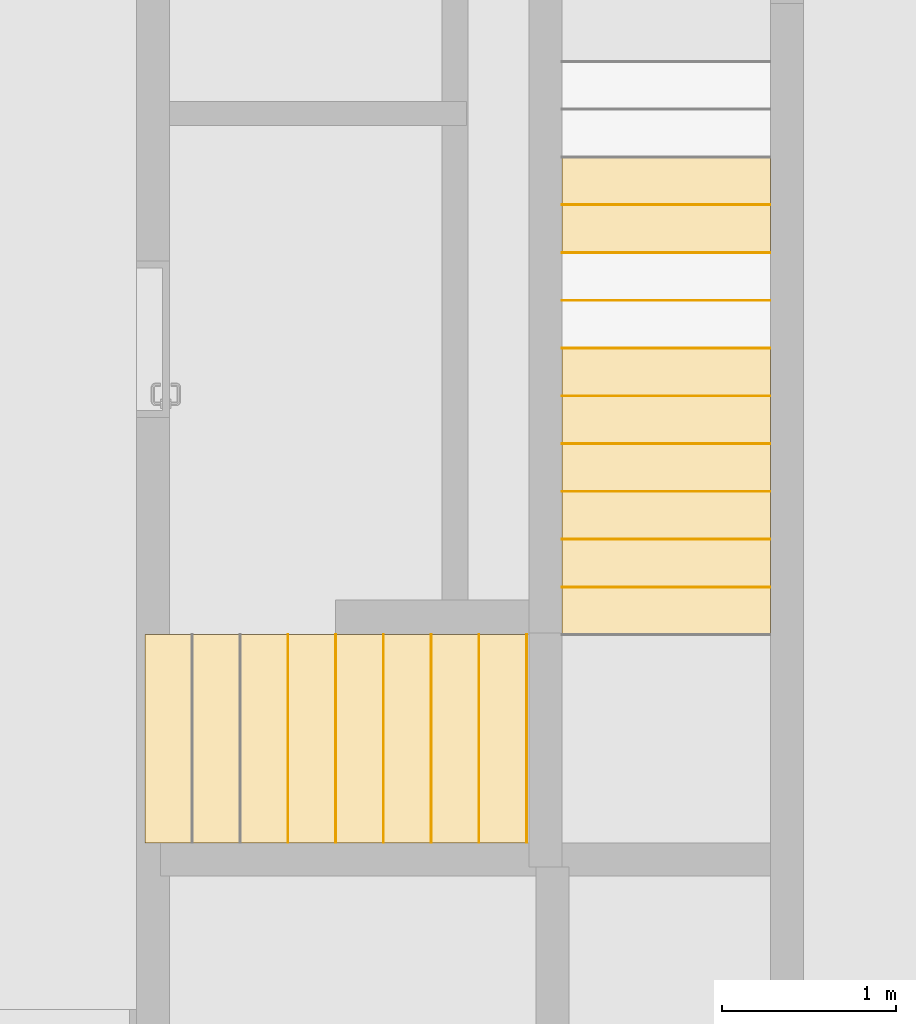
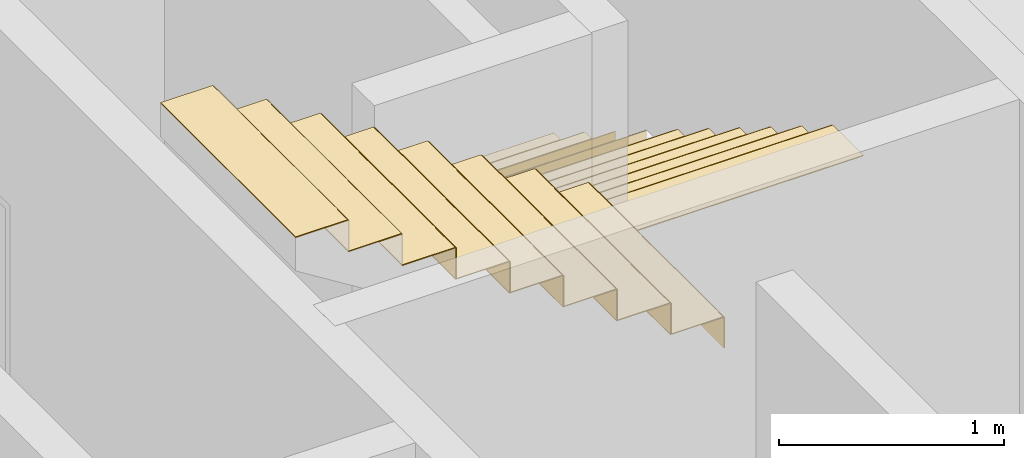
# One storey, part 60 of 62: 31 coverings, 1 element without a shape of its own.
"""IFC2X3 building model written with IfcOpenShell, lengths in millimetres."""

from ifc_helpers import new_model, entity, si_unit, converted_unit, derived_unit, money_unit, direction, frame, origin_with_axes, place, context, subcontext, project, spatial, faceted_brep, material, type_object, element, aggregate, save


model = new_model("IFC2X3")

# Units and contexts
model_context = context("Model", 3, precision=0.01, world=origin_with_axes(), true_north=direction((0.0, 1.0)))
body_context = subcontext(model_context, "Body", "Model", "MODEL_VIEW")
ifc_project = project(units=[si_unit("LENGTHUNIT", "METRE", prefix="MILLI"), si_unit("AREAUNIT", "SQUARE_METRE"), si_unit("VOLUMEUNIT", "CUBIC_METRE"), converted_unit("PLANEANGLEUNIT", "DEGREE", entity("IfcPlaneAngleMeasure", 0.0174532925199), si_unit("PLANEANGLEUNIT", "RADIAN"), dimensions=[0, 0, 0, 0, 0, 0, 0]), si_unit("SOLIDANGLEUNIT", "STERADIAN"), money_unit("EUR"), converted_unit("TIMEUNIT", "Year", entity("IfcTimeMeasure", 31556926.0), si_unit("TIMEUNIT", "SECOND"), dimensions=[0, 0, 1, 0, 0, 0, 0]), si_unit("MASSUNIT", "GRAM", prefix="KILO"), si_unit("THERMODYNAMICTEMPERATUREUNIT", "DEGREE_CELSIUS"), si_unit("LUMINOUSINTENSITYUNIT", "LUMEN"), si_unit("ENERGYUNIT", "JOULE", prefix="MEGA"), derived_unit("THERMALCONDUCTANCEUNIT", [(si_unit("POWERUNIT", "WATT"), 1), (si_unit("LENGTHUNIT", "METRE"), -1), (si_unit("THERMODYNAMICTEMPERATUREUNIT", "KELVIN"), -1)]), derived_unit("SPECIFICHEATCAPACITYUNIT", [(si_unit("ENERGYUNIT", "JOULE"), 1), (si_unit("MASSUNIT", "GRAM", prefix="KILO"), -1), (si_unit("THERMODYNAMICTEMPERATUREUNIT", "KELVIN"), -1)]), derived_unit("MASSDENSITYUNIT", [(si_unit("MASSUNIT", "GRAM", prefix="KILO"), 1), (si_unit("VOLUMEUNIT", "CUBIC_METRE"), -1)])], contexts=[model_context])

# Site, building, storey
site_placement = place(None, origin_with_axes())
site = spatial("IfcSite", under=ifc_project, at=site_placement, Name="KIRDE 14, ELVA", CompositionType="ELEMENT")
building_placement = place(site_placement, origin_with_axes())
building = spatial("IfcBuilding", under=site, at=building_placement, Name="PPA ja Päästeameti ühishoone", CompositionType="ELEMENT")
storey_placement = place(building_placement, origin_with_axes())
storey = spatial("IfcBuildingStorey", under=building, at=storey_placement, Name="Esimene korrus", CompositionType="ELEMENT", Elevation=0.0)

# Stair, coverings
stair_placement = place(storey_placement, frame((7700.00010085, 18999.9988138, 0.0), z_axis=(0.0, 0.0, 1.0), x_axis=(0.845542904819, 0.533907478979, 0.0)))
stair = element("IfcStair", 1, at=stair_placement, inside=storey, Name="TREPP", ShapeType="NOTDEFINED")
ifc_material = material(Name="SV-02_Puit - Põrand")
covering_type = type_object("IfcCoveringType", Name="IfcCovering", PredefinedType="FLOORING")
covering_1_placement = place(stair_placement, frame((66.8520789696, -1017.91738681, 680.714285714), z_axis=(0.0, 0.0, 1.0), x_axis=(-0.845542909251, 0.533907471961, 0.0)))
covering_1 = element("IfcCovering", 2, at=covering_1_placement, type_object=covering_type, material=ifc_material, Name="TV TÕUS - 004", PredefinedType="FLOORING", context=body_context, shape_type="Brep", body=[
    faceted_brep([(600.0, 0.0, 0.0), (600.0, 5.0, 0.0), (-600.0, 5.0, 0.0), (-600.0, 0.0, 0.0), (600.0, 0.0, -166.428571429), (600.0, 5.0, -166.428571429), (-600.0, 5.0, -166.428571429), (-600.0, 0.0, -166.428571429)], [[[0, 1, 2, 3]], [[0, 4, 5, 1]], [[1, 5, 6, 2]], [[3, 2, 6, 7]], [[4, 0, 3, 7]], [[5, 4, 7, 6]]]),
])
covering_2_placement = place(stair_placement, frame((-79.9724765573, -1250.44168802, 852.142857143), z_axis=(0.0, 0.0, 1.0), x_axis=(-0.845542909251, 0.533907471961, 0.0)))
covering_2 = element("IfcCovering", 3, at=covering_2_placement, type_object=covering_type, material=ifc_material, Name="TV TÕUS - 005", PredefinedType="FLOORING", context=body_context, shape_type="Brep", body=[
    faceted_brep([(600.0, 0.0, 0.0), (600.0, 5.0, 0.0), (-600.0, 5.0, 0.0), (-600.0, 0.0, 0.0), (600.0, 0.0, -166.428571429), (600.0, 5.0, -166.428571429), (-600.0, 5.0, -166.428571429), (-600.0, 0.0, -166.428571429)], [[[0, 1, 2, 3]], [[0, 4, 5, 1]], [[1, 5, 6, 2]], [[3, 2, 6, 7]], [[4, 0, 3, 7]], [[5, 4, 7, 6]]]),
])
covering_3_placement = place(stair_placement, frame((-226.797032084, -1482.96598924, 1023.57142857), z_axis=(0.0, 0.0, 1.0), x_axis=(-0.845542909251, 0.533907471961, 0.0)))
covering_3 = element("IfcCovering", 4, at=covering_3_placement, type_object=covering_type, material=ifc_material, Name="TV TÕUS - 006", PredefinedType="FLOORING", context=body_context, shape_type="Brep", body=[
    faceted_brep([(600.0, 0.0, 0.0), (600.0, 5.0, 0.0), (-600.0, 5.0, 0.0), (-600.0, 0.0, 0.0), (600.0, 0.0, -166.428571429), (600.0, 5.0, -166.428571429), (-600.0, 5.0, -166.428571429), (-600.0, 0.0, -166.428571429)], [[[0, 1, 2, 3]], [[0, 4, 5, 1]], [[1, 5, 6, 2]], [[3, 2, 6, 7]], [[4, 0, 3, 7]], [[5, 4, 7, 6]]]),
])
covering_4_placement = place(stair_placement, frame((-373.621587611, -1715.49029045, 1195.0), z_axis=(0.0, 0.0, 1.0), x_axis=(-0.845542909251, 0.533907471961, 0.0)))
covering_4 = element("IfcCovering", 5, at=covering_4_placement, type_object=covering_type, material=ifc_material, Name="TV TÕUS - 007", PredefinedType="FLOORING", context=body_context, shape_type="Brep", body=[
    faceted_brep([(600.0, 0.0, 0.0), (600.0, 5.0, 0.0), (-600.0, 5.0, 0.0), (-600.0, 0.0, 0.0), (600.0, 0.0, -166.428571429), (600.0, 5.0, -166.428571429), (-600.0, 5.0, -166.428571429), (-600.0, 0.0, -166.428571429)], [[[0, 1, 2, 3]], [[0, 4, 5, 1]], [[1, 5, 6, 2]], [[3, 2, 6, 7]], [[4, 0, 3, 7]], [[5, 4, 7, 6]]]),
])
covering_5_placement = place(stair_placement, frame((-520.446143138, -1948.01459166, 1366.42857143), z_axis=(0.0, 0.0, 1.0), x_axis=(-0.845542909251, 0.533907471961, 0.0)))
covering_5 = element("IfcCovering", 6, at=covering_5_placement, type_object=covering_type, material=ifc_material, Name="TV TÕUS - 008", PredefinedType="FLOORING", context=body_context, shape_type="Brep", body=[
    faceted_brep([(600.0, 0.0, 0.0), (600.0, 5.0, 0.0), (-600.0, 5.0, 0.0), (-600.0, 0.0, 0.0), (600.0, 0.0, -166.428571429), (600.0, 5.0, -166.428571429), (-600.0, 5.0, -166.428571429), (-600.0, 0.0, -166.428571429)], [[[0, 1, 2, 3]], [[0, 4, 5, 1]], [[1, 5, 6, 2]], [[3, 2, 6, 7]], [[4, 0, 3, 7]], [[5, 4, 7, 6]]]),
])
covering_6_placement = place(stair_placement, frame((-667.270698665, -2180.53889287, 1537.85714286), z_axis=(0.0, 0.0, 1.0), x_axis=(-0.845542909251, 0.533907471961, 0.0)))
covering_6 = element("IfcCovering", 7, at=covering_6_placement, type_object=covering_type, material=ifc_material, Name="TV TÕUS - 009", PredefinedType="FLOORING", context=body_context, shape_type="Brep", body=[
    faceted_brep([(600.0, 0.0, 0.0), (600.0, 5.0, 0.0), (-600.0, 5.0, 0.0), (-600.0, 0.0, 0.0), (600.0, 0.0, -166.428571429), (600.0, 5.0, -166.428571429), (-600.0, 5.0, -166.428571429), (-600.0, 0.0, -166.428571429)], [[[0, 1, 2, 3]], [[0, 4, 5, 1]], [[1, 5, 6, 2]], [[3, 2, 6, 7]], [[4, 0, 3, 7]], [[5, 4, 7, 6]]]),
])
covering_7_placement = place(stair_placement, frame((-814.095254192, -2413.06319408, 1709.28571429), z_axis=(0.0, 0.0, 1.0), x_axis=(-0.845542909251, 0.533907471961, 0.0)))
covering_7 = element("IfcCovering", 8, at=covering_7_placement, type_object=covering_type, material=ifc_material, Name="TV TÕUS - 010", PredefinedType="FLOORING", context=body_context, shape_type="Brep", body=[
    faceted_brep([(600.0, 0.0, 0.0), (600.0, 5.0, 0.0), (-600.0, 5.0, 0.0), (-600.0, 0.0, 0.0), (600.0, 0.0, -166.428571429), (600.0, 5.0, -166.428571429), (-600.0, 5.0, -166.428571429), (-600.0, 0.0, -166.428571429)], [[[0, 1, 2, 3]], [[0, 4, 5, 1]], [[1, 5, 6, 2]], [[3, 2, 6, 7]], [[4, 0, 3, 7]], [[5, 4, 7, 6]]]),
])
covering_8_placement = place(stair_placement, frame((-960.919809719, -2645.5874953, 1880.71428571), z_axis=(0.0, 0.0, 1.0), x_axis=(-0.845542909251, 0.533907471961, 0.0)))
covering_8 = element("IfcCovering", 9, at=covering_8_placement, type_object=covering_type, material=ifc_material, Name="TV TÕUS - 011", PredefinedType="FLOORING", context=body_context, shape_type="Brep", body=[
    faceted_brep([(600.0, 0.0, 0.0), (600.0, 5.0, 0.0), (-600.0, 5.0, 0.0), (-600.0, 0.0, 0.0), (600.0, 0.0, -166.428571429), (600.0, 5.0, -166.428571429), (-600.0, 5.0, -166.428571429), (-600.0, 0.0, -166.428571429)], [[[0, 1, 2, 3]], [[0, 4, 5, 1]], [[1, 5, 6, 2]], [[3, 2, 6, 7]], [[4, 0, 3, 7]], [[5, 4, 7, 6]]]),
])
covering_9_placement = place(stair_placement, frame((-1107.74436525, -2878.11179651, 2052.14285714), z_axis=(0.0, 0.0, 1.0), x_axis=(-0.845542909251, 0.533907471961, 0.0)))
covering_9 = element("IfcCovering", 10, at=covering_9_placement, type_object=covering_type, material=ifc_material, Name="TV TÕUS - 012", PredefinedType="FLOORING", context=body_context, shape_type="Brep", body=[
    faceted_brep([(600.0, 0.0, 0.0), (600.0, 5.0, 0.0), (-600.0, 5.0, 0.0), (-600.0, 0.0, 0.0), (600.0, 0.0, -166.428571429), (600.0, 5.0, -166.428571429), (-600.0, 5.0, -166.428571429), (-600.0, 0.0, -166.428571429)], [[[0, 1, 2, 3]], [[0, 4, 5, 1]], [[1, 5, 6, 2]], [[3, 2, 6, 7]], [[4, 0, 3, 7]], [[5, 4, 7, 6]]]),
])
covering_10_placement = place(stair_placement, frame((-2251.34772105, -3190.83587272, 2395.0), z_axis=(0.0, 0.0, 1.0), x_axis=(0.533907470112, 0.845542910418, 0.0)))
covering_10 = element("IfcCovering", 11, at=covering_10_placement, type_object=covering_type, material=ifc_material, Name="TV TÕUS - 013", PredefinedType="FLOORING", context=body_context, shape_type="Brep", body=[
    faceted_brep([(600.0, 0.0, 0.0), (600.0, 5.0, 0.0), (-600.0, 5.0, 0.0), (-600.0, 0.0, 0.0), (600.0, 0.0, -166.428571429), (600.0, 5.0, -166.428571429), (-600.0, 5.0, -166.428571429), (-600.0, 0.0, -166.428571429)], [[[0, 1, 2, 3]], [[0, 4, 5, 1]], [[1, 5, 6, 2]], [[3, 2, 6, 7]], [[4, 0, 3, 7]], [[5, 4, 7, 6]]]),
])
covering_11_placement = place(stair_placement, frame((-2483.87202258, -3044.0113177, 2566.42857143), z_axis=(0.0, 0.0, 1.0), x_axis=(0.533907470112, 0.845542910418, 0.0)))
covering_11 = element("IfcCovering", 12, at=covering_11_placement, type_object=covering_type, material=ifc_material, Name="TV TÕUS - 014", PredefinedType="FLOORING", context=body_context, shape_type="Brep", body=[
    faceted_brep([(600.0, 0.0, 0.0), (600.0, 5.0, 0.0), (-600.0, 5.0, 0.0), (-600.0, 0.0, 0.0), (600.0, 0.0, -166.428571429), (600.0, 5.0, -166.428571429), (-600.0, 5.0, -166.428571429), (-600.0, 0.0, -166.428571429)], [[[0, 1, 2, 3]], [[0, 4, 5, 1]], [[1, 5, 6, 2]], [[3, 2, 6, 7]], [[4, 0, 3, 7]], [[5, 4, 7, 6]]]),
])
covering_12_placement = place(stair_placement, frame((-2716.39632412, -2897.18676269, 2737.85714286), z_axis=(0.0, 0.0, 1.0), x_axis=(0.533907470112, 0.845542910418, 0.0)))
covering_12 = element("IfcCovering", 13, at=covering_12_placement, type_object=covering_type, material=ifc_material, Name="TV TÕUS - 015", PredefinedType="FLOORING", context=body_context, shape_type="Brep", body=[
    faceted_brep([(600.0, 0.0, 0.0), (600.0, 5.0, 0.0), (-600.0, 5.0, 0.0), (-600.0, 0.0, 0.0), (600.0, 0.0, -166.428571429), (600.0, 5.0, -166.428571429), (-600.0, 5.0, -166.428571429), (-600.0, 0.0, -166.428571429)], [[[0, 1, 2, 3]], [[0, 4, 5, 1]], [[1, 5, 6, 2]], [[3, 2, 6, 7]], [[4, 0, 3, 7]], [[5, 4, 7, 6]]]),
])
covering_13_placement = place(stair_placement, frame((-2948.92062565, -2750.36220767, 2909.28571429), z_axis=(0.0, 0.0, 1.0), x_axis=(0.533907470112, 0.845542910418, 0.0)))
covering_13 = element("IfcCovering", 14, at=covering_13_placement, type_object=covering_type, material=ifc_material, Name="TV TÕUS - 016", PredefinedType="FLOORING", context=body_context, shape_type="Brep", body=[
    faceted_brep([(600.0, 0.0, 0.0), (600.0, 5.0, 0.0), (-600.0, 5.0, 0.0), (-600.0, 0.0, 0.0), (600.0, 0.0, -166.428571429), (600.0, 5.0, -166.428571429), (-600.0, 5.0, -166.428571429), (-600.0, 0.0, -166.428571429)], [[[0, 1, 2, 3]], [[0, 4, 5, 1]], [[1, 5, 6, 2]], [[3, 2, 6, 7]], [[4, 0, 3, 7]], [[5, 4, 7, 6]]]),
])
covering_14_placement = place(stair_placement, frame((-3181.44492718, -2603.53765265, 3080.71428571), z_axis=(0.0, 0.0, 1.0), x_axis=(0.533907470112, 0.845542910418, 0.0)))
covering_14 = element("IfcCovering", 15, at=covering_14_placement, type_object=covering_type, material=ifc_material, Name="TV TÕUS - 017", PredefinedType="FLOORING", context=body_context, shape_type="Brep", body=[
    faceted_brep([(600.0, 0.0, 0.0), (600.0, 5.0, 0.0), (-600.0, 5.0, 0.0), (-600.0, 0.0, 0.0), (600.0, 0.0, -166.428571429), (600.0, 5.0, -166.428571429), (-600.0, 5.0, -166.428571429), (-600.0, 0.0, -166.428571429)], [[[0, 1, 2, 3]], [[0, 4, 5, 1]], [[1, 5, 6, 2]], [[3, 2, 6, 7]], [[4, 0, 3, 7]], [[5, 4, 7, 6]]]),
])
covering_15_placement = place(stair_placement, frame((-3413.96922872, -2456.71309763, 3252.14285714), z_axis=(0.0, 0.0, 1.0), x_axis=(0.533907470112, 0.845542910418, 0.0)))
covering_15 = element("IfcCovering", 16, at=covering_15_placement, type_object=covering_type, material=ifc_material, Name="TV TÕUS - 018", PredefinedType="FLOORING", context=body_context, shape_type="Brep", body=[
    faceted_brep([(600.0, 0.0, 0.0), (600.0, 5.0, 0.0), (-600.0, 5.0, 0.0), (-600.0, 0.0, 0.0), (600.0, 0.0, -166.428571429), (600.0, 5.0, -166.428571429), (-600.0, 5.0, -166.428571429), (-600.0, 0.0, -166.428571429)], [[[0, 1, 2, 3]], [[0, 4, 5, 1]], [[1, 5, 6, 2]], [[3, 2, 6, 7]], [[4, 0, 3, 7]], [[5, 4, 7, 6]]]),
])
covering_16_placement = place(stair_placement, frame((213.676634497, -785.393085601, 514.285714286), z_axis=(0.0, 0.0, 1.0), x_axis=(-0.845542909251, 0.533907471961, 0.0)))
covering_16 = element("IfcCovering", 17, at=covering_16_placement, type_object=covering_type, material=ifc_material, Name="TV ASTE - 003", PredefinedType="FLOORING", context=body_context, shape_type="Brep", body=[
    faceted_brep([(-600.0, 280.000001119, 0.0), (600.0, 280.000006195, 0.0), (600.0, 280.000006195, -5.0), (-600.0, 280.000001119, -5.0), (-600.0, 12.5, 0.0), (600.0, 12.5, 0.0), (600.0, 2.92444446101, -4.46515487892), (600.0, 2.54994187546, -5.0), (600.0, 10.3293977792, -0.189903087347), (600.0, 8.22474820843, -0.753842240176), (600.0, 6.25, -1.67468245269), (600.0, 4.46515487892, -2.92444446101), (-600.0, 2.54994187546, -5.0), (-600.0, 2.92444446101, -4.46515487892), (-600.0, 4.46515487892, -2.92444446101), (-600.0, 6.25, -1.67468245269), (-600.0, 8.22474820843, -0.753842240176), (-600.0, 10.3293977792, -0.189903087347)], [[[0, 1, 2, 3]], [[1, 0, 4, 5]], [[6, 7, 2, 1, 5, 8, 9, 10, 11]], [[7, 12, 3, 2]], [[4, 0, 3, 12, 13, 14, 15, 16, 17]], [[8, 5, 4, 17]], [[7, 6, 13, 12]], [[9, 8, 17, 16]], [[10, 9, 16, 15]], [[11, 10, 15, 14]], [[6, 11, 14, 13]]]),
])
covering_17_placement = place(stair_placement, frame((66.8520789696, -1017.91738681, 685.714285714), z_axis=(0.0, 0.0, 1.0), x_axis=(-0.845542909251, 0.533907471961, 0.0)))
covering_17 = element("IfcCovering", 18, at=covering_17_placement, type_object=covering_type, material=ifc_material, Name="TV ASTE - 004", PredefinedType="FLOORING", context=body_context, shape_type="Brep", body=[
    faceted_brep([(-600.0, 280.000001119, 0.0), (600.0, 280.000006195, 0.0), (600.0, 280.000006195, -5.0), (-600.0, 280.000001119, -5.0), (-600.0, 12.5, 0.0), (600.0, 12.5, 0.0), (600.0, 2.92444446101, -4.46515487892), (600.0, 2.54994187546, -5.0), (600.0, 10.3293977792, -0.189903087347), (600.0, 8.22474820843, -0.753842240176), (600.0, 6.25, -1.67468245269), (600.0, 4.46515487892, -2.92444446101), (-600.0, 2.54994187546, -5.0), (-600.0, 2.92444446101, -4.46515487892), (-600.0, 4.46515487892, -2.92444446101), (-600.0, 6.25, -1.67468245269), (-600.0, 8.22474820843, -0.753842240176), (-600.0, 10.3293977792, -0.189903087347)], [[[0, 1, 2, 3]], [[1, 0, 4, 5]], [[6, 7, 2, 1, 5, 8, 9, 10, 11]], [[7, 12, 3, 2]], [[4, 0, 3, 12, 13, 14, 15, 16, 17]], [[8, 5, 4, 17]], [[7, 6, 13, 12]], [[9, 8, 17, 16]], [[10, 9, 16, 15]], [[11, 10, 15, 14]], [[6, 11, 14, 13]]]),
])
covering_18_placement = place(stair_placement, frame((-373.621587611, -1715.49029045, 1200.0), z_axis=(0.0, 0.0, 1.0), x_axis=(-0.845542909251, 0.533907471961, 0.0)))
covering_18 = element("IfcCovering", 19, at=covering_18_placement, type_object=covering_type, material=ifc_material, Name="TV ASTE - 007", PredefinedType="FLOORING", context=body_context, shape_type="Brep", body=[
    faceted_brep([(-600.0, 280.000001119, 0.0), (600.0, 280.000006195, 0.0), (600.0, 280.000006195, -5.0), (-600.0, 280.000001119, -5.0), (-600.0, 12.5, 0.0), (600.0, 12.5, 0.0), (600.0, 2.92444446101, -4.46515487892), (600.0, 2.54994187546, -5.0), (600.0, 10.3293977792, -0.189903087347), (600.0, 8.22474820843, -0.753842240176), (600.0, 6.25, -1.67468245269), (600.0, 4.46515487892, -2.92444446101), (-600.0, 2.54994187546, -5.0), (-600.0, 2.92444446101, -4.46515487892), (-600.0, 4.46515487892, -2.92444446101), (-600.0, 6.25, -1.67468245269), (-600.0, 8.22474820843, -0.753842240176), (-600.0, 10.3293977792, -0.189903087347)], [[[0, 1, 2, 3]], [[1, 0, 4, 5]], [[6, 7, 2, 1, 5, 8, 9, 10, 11]], [[7, 12, 3, 2]], [[4, 0, 3, 12, 13, 14, 15, 16, 17]], [[8, 5, 4, 17]], [[7, 6, 13, 12]], [[9, 8, 17, 16]], [[10, 9, 16, 15]], [[11, 10, 15, 14]], [[6, 11, 14, 13]]]),
])
covering_19_placement = place(stair_placement, frame((-520.446143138, -1948.01459166, 1371.42857143), z_axis=(0.0, 0.0, 1.0), x_axis=(-0.845542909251, 0.533907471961, 0.0)))
covering_19 = element("IfcCovering", 20, at=covering_19_placement, type_object=covering_type, material=ifc_material, Name="TV ASTE - 008", PredefinedType="FLOORING", context=body_context, shape_type="Brep", body=[
    faceted_brep([(-600.0, 280.000001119, 0.0), (600.0, 280.000006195, 0.0), (600.0, 280.000006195, -5.0), (-600.0, 280.000001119, -5.0), (-600.0, 12.5, 0.0), (600.0, 12.5, 0.0), (600.0, 2.92444446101, -4.46515487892), (600.0, 2.54994187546, -5.0), (600.0, 10.3293977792, -0.189903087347), (600.0, 8.22474820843, -0.753842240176), (600.0, 6.25, -1.67468245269), (600.0, 4.46515487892, -2.92444446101), (-600.0, 2.54994187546, -5.0), (-600.0, 2.92444446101, -4.46515487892), (-600.0, 4.46515487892, -2.92444446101), (-600.0, 6.25, -1.67468245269), (-600.0, 8.22474820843, -0.753842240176), (-600.0, 10.3293977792, -0.189903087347)], [[[0, 1, 2, 3]], [[1, 0, 4, 5]], [[6, 7, 2, 1, 5, 8, 9, 10, 11]], [[7, 12, 3, 2]], [[4, 0, 3, 12, 13, 14, 15, 16, 17]], [[8, 5, 4, 17]], [[7, 6, 13, 12]], [[9, 8, 17, 16]], [[10, 9, 16, 15]], [[11, 10, 15, 14]], [[6, 11, 14, 13]]]),
])
covering_20_placement = place(stair_placement, frame((-667.270698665, -2180.53889287, 1542.85714286), z_axis=(0.0, 0.0, 1.0), x_axis=(-0.845542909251, 0.533907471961, 0.0)))
covering_20 = element("IfcCovering", 21, at=covering_20_placement, type_object=covering_type, material=ifc_material, Name="TV ASTE - 009", PredefinedType="FLOORING", context=body_context, shape_type="Brep", body=[
    faceted_brep([(-600.0, 280.000001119, 0.0), (600.0, 280.000006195, 0.0), (600.0, 280.000006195, -5.0), (-600.0, 280.000001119, -5.0), (-600.0, 12.5, 0.0), (600.0, 12.5, 0.0), (600.0, 2.92444446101, -4.46515487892), (600.0, 2.54994187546, -5.0), (600.0, 10.3293977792, -0.189903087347), (600.0, 8.22474820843, -0.753842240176), (600.0, 6.25, -1.67468245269), (600.0, 4.46515487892, -2.92444446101), (-600.0, 2.54994187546, -5.0), (-600.0, 2.92444446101, -4.46515487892), (-600.0, 4.46515487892, -2.92444446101), (-600.0, 6.25, -1.67468245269), (-600.0, 8.22474820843, -0.753842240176), (-600.0, 10.3293977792, -0.189903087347)], [[[0, 1, 2, 3]], [[1, 0, 4, 5]], [[6, 7, 2, 1, 5, 8, 9, 10, 11]], [[7, 12, 3, 2]], [[4, 0, 3, 12, 13, 14, 15, 16, 17]], [[8, 5, 4, 17]], [[7, 6, 13, 12]], [[9, 8, 17, 16]], [[10, 9, 16, 15]], [[11, 10, 15, 14]], [[6, 11, 14, 13]]]),
])
covering_21_placement = place(stair_placement, frame((-814.095254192, -2413.06319408, 1714.28571429), z_axis=(0.0, 0.0, 1.0), x_axis=(-0.845542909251, 0.533907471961, 0.0)))
covering_21 = element("IfcCovering", 22, at=covering_21_placement, type_object=covering_type, material=ifc_material, Name="TV ASTE - 010", PredefinedType="FLOORING", context=body_context, shape_type="Brep", body=[
    faceted_brep([(-600.0, 280.000001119, 0.0), (600.0, 280.000006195, 0.0), (600.0, 280.000006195, -5.0), (-600.0, 280.000001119, -5.0), (-600.0, 12.5, 0.0), (600.0, 12.5, 0.0), (600.0, 2.92444446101, -4.46515487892), (600.0, 2.54994187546, -5.0), (600.0, 10.3293977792, -0.189903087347), (600.0, 8.22474820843, -0.753842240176), (600.0, 6.25, -1.67468245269), (600.0, 4.46515487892, -2.92444446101), (-600.0, 2.54994187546, -5.0), (-600.0, 2.92444446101, -4.46515487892), (-600.0, 4.46515487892, -2.92444446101), (-600.0, 6.25, -1.67468245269), (-600.0, 8.22474820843, -0.753842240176), (-600.0, 10.3293977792, -0.189903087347)], [[[0, 1, 2, 3]], [[1, 0, 4, 5]], [[6, 7, 2, 1, 5, 8, 9, 10, 11]], [[7, 12, 3, 2]], [[4, 0, 3, 12, 13, 14, 15, 16, 17]], [[8, 5, 4, 17]], [[7, 6, 13, 12]], [[9, 8, 17, 16]], [[10, 9, 16, 15]], [[11, 10, 15, 14]], [[6, 11, 14, 13]]]),
])
covering_22_placement = place(stair_placement, frame((-960.919809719, -2645.5874953, 1885.71428571), z_axis=(0.0, 0.0, 1.0), x_axis=(-0.845542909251, 0.533907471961, 0.0)))
covering_22 = element("IfcCovering", 23, at=covering_22_placement, type_object=covering_type, material=ifc_material, Name="TV ASTE - 011", PredefinedType="FLOORING", context=body_context, shape_type="Brep", body=[
    faceted_brep([(-600.0, 280.000001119, 0.0), (600.0, 280.000006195, 0.0), (600.0, 280.000006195, -5.0), (-600.0, 280.000001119, -5.0), (-600.0, 12.5, 0.0), (600.0, 12.5, 0.0), (600.0, 2.92444446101, -4.46515487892), (600.0, 2.54994187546, -5.0), (600.0, 10.3293977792, -0.189903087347), (600.0, 8.22474820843, -0.753842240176), (600.0, 6.25, -1.67468245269), (600.0, 4.46515487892, -2.92444446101), (-600.0, 2.54994187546, -5.0), (-600.0, 2.92444446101, -4.46515487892), (-600.0, 4.46515487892, -2.92444446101), (-600.0, 6.25, -1.67468245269), (-600.0, 8.22474820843, -0.753842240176), (-600.0, 10.3293977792, -0.189903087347)], [[[0, 1, 2, 3]], [[1, 0, 4, 5]], [[6, 7, 2, 1, 5, 8, 9, 10, 11]], [[7, 12, 3, 2]], [[4, 0, 3, 12, 13, 14, 15, 16, 17]], [[8, 5, 4, 17]], [[7, 6, 13, 12]], [[9, 8, 17, 16]], [[10, 9, 16, 15]], [[11, 10, 15, 14]], [[6, 11, 14, 13]]]),
])
covering_23_placement = place(stair_placement, frame((-1107.74436525, -2878.11179651, 2057.14285714), z_axis=(0.0, 0.0, 1.0), x_axis=(-0.845542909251, 0.533907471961, 0.0)))
covering_23 = element("IfcCovering", 24, at=covering_23_placement, type_object=covering_type, material=ifc_material, Name="TV ASTE - 012", PredefinedType="FLOORING", context=body_context, shape_type="Brep", body=[
    faceted_brep([(-600.0, 280.000001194, 0.0), (599.999996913, 280.00000627, 0.0), (599.999996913, 280.00000627, -5.0), (-600.0, 280.000001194, -5.0), (-600.0, 12.5, 0.0), (600.0, 12.5, 0.0), (600.0, 275.00000116, 0.0), (600.0, 275.00000116, -5.0), (600.0, 2.54994187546, -5.0), (-600.0, 2.54994187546, -5.0), (-600.0, 2.92444446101, -4.46515487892), (-600.0, 4.46515487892, -2.92444446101), (-600.0, 6.25, -1.67468245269), (-600.0, 8.22474820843, -0.753842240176), (-600.0, 10.3293977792, -0.189903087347), (600.0, 10.3293977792, -0.189903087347), (600.0, 2.92444446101, -4.46515487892), (600.0, 8.22474820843, -0.753842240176), (600.0, 6.25, -1.67468245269), (600.0, 4.46515487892, -2.92444446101)], [[[0, 1, 2, 3]], [[1, 0, 4, 5, 6]], [[1, 6, 7, 2]], [[8, 9, 3, 2, 7]], [[4, 0, 3, 9, 10, 11, 12, 13, 14]], [[15, 5, 4, 14]], [[16, 8, 7, 6, 5, 15, 17, 18, 19]], [[8, 16, 10, 9]], [[16, 19, 11, 10]], [[19, 18, 12, 11]], [[18, 17, 13, 12]], [[17, 15, 14, 13]]]),
])
covering_24_placement = place(stair_placement, frame((-2251.34772105, -3190.83587272, 2400.0), z_axis=(0.0, 0.0, 1.0), x_axis=(0.533907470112, 0.845542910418, 0.0)))
covering_24 = element("IfcCovering", 25, at=covering_24_placement, type_object=covering_type, material=ifc_material, Name="TV ASTE - 013", PredefinedType="FLOORING", context=body_context, shape_type="Brep", body=[
    faceted_brep([(-600.0, 280.000001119, 0.0), (600.0, 280.000006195, 0.0), (600.0, 280.000006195, -5.0), (-600.0, 280.000001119, -5.0), (-600.0, 12.5, 0.0), (600.0, 12.5, 0.0), (600.0, 2.92444446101, -4.46515487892), (600.0, 2.54994187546, -5.0), (600.0, 10.3293977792, -0.189903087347), (600.0, 8.22474820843, -0.753842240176), (600.0, 6.25, -1.67468245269), (600.0, 4.46515487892, -2.92444446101), (-600.0, 2.54994187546, -5.0), (-600.0, 2.92444446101, -4.46515487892), (-600.0, 4.46515487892, -2.92444446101), (-600.0, 6.25, -1.67468245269), (-600.0, 8.22474820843, -0.753842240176), (-600.0, 10.3293977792, -0.189903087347)], [[[0, 1, 2, 3]], [[1, 0, 4, 5]], [[6, 7, 2, 1, 5, 8, 9, 10, 11]], [[7, 12, 3, 2]], [[4, 0, 3, 12, 13, 14, 15, 16, 17]], [[8, 5, 4, 17]], [[7, 6, 13, 12]], [[9, 8, 17, 16]], [[10, 9, 16, 15]], [[11, 10, 15, 14]], [[6, 11, 14, 13]]]),
])
covering_25_placement = place(stair_placement, frame((-2483.87202258, -3044.0113177, 2571.42857143), z_axis=(0.0, 0.0, 1.0), x_axis=(0.533907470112, 0.845542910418, 0.0)))
covering_25 = element("IfcCovering", 26, at=covering_25_placement, type_object=covering_type, material=ifc_material, Name="TV ASTE - 014", PredefinedType="FLOORING", context=body_context, shape_type="Brep", body=[
    faceted_brep([(-600.0, 280.000001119, 0.0), (600.0, 280.000006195, 0.0), (600.0, 280.000006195, -5.0), (-600.0, 280.000001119, -5.0), (-600.0, 12.5, 0.0), (600.0, 12.5, 0.0), (600.0, 2.92444446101, -4.46515487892), (600.0, 2.54994187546, -5.0), (600.0, 10.3293977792, -0.189903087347), (600.0, 8.22474820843, -0.753842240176), (600.0, 6.25, -1.67468245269), (600.0, 4.46515487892, -2.92444446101), (-600.0, 2.54994187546, -5.0), (-600.0, 2.92444446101, -4.46515487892), (-600.0, 4.46515487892, -2.92444446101), (-600.0, 6.25, -1.67468245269), (-600.0, 8.22474820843, -0.753842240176), (-600.0, 10.3293977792, -0.189903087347)], [[[0, 1, 2, 3]], [[1, 0, 4, 5]], [[6, 7, 2, 1, 5, 8, 9, 10, 11]], [[7, 12, 3, 2]], [[4, 0, 3, 12, 13, 14, 15, 16, 17]], [[8, 5, 4, 17]], [[7, 6, 13, 12]], [[9, 8, 17, 16]], [[10, 9, 16, 15]], [[11, 10, 15, 14]], [[6, 11, 14, 13]]]),
])
covering_26_placement = place(stair_placement, frame((-2716.39632412, -2897.18676269, 2742.85714286), z_axis=(0.0, 0.0, 1.0), x_axis=(0.533907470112, 0.845542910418, 0.0)))
covering_26 = element("IfcCovering", 27, at=covering_26_placement, type_object=covering_type, material=ifc_material, Name="TV ASTE - 015", PredefinedType="FLOORING", context=body_context, shape_type="Brep", body=[
    faceted_brep([(-600.0, 280.000001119, 0.0), (600.0, 280.000006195, 0.0), (600.0, 280.000006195, -5.0), (-600.0, 280.000001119, -5.0), (-600.0, 12.5, 0.0), (600.0, 12.5, 0.0), (600.0, 2.92444446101, -4.46515487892), (600.0, 2.54994187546, -5.0), (600.0, 10.3293977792, -0.189903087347), (600.0, 8.22474820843, -0.753842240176), (600.0, 6.25, -1.67468245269), (600.0, 4.46515487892, -2.92444446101), (-600.0, 2.54994187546, -5.0), (-600.0, 2.92444446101, -4.46515487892), (-600.0, 4.46515487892, -2.92444446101), (-600.0, 6.25, -1.67468245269), (-600.0, 8.22474820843, -0.753842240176), (-600.0, 10.3293977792, -0.189903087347)], [[[0, 1, 2, 3]], [[1, 0, 4, 5]], [[6, 7, 2, 1, 5, 8, 9, 10, 11]], [[7, 12, 3, 2]], [[4, 0, 3, 12, 13, 14, 15, 16, 17]], [[8, 5, 4, 17]], [[7, 6, 13, 12]], [[9, 8, 17, 16]], [[10, 9, 16, 15]], [[11, 10, 15, 14]], [[6, 11, 14, 13]]]),
])
covering_27_placement = place(stair_placement, frame((-2948.92062565, -2750.36220767, 2914.28571429), z_axis=(0.0, 0.0, 1.0), x_axis=(0.533907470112, 0.845542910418, 0.0)))
covering_27 = element("IfcCovering", 28, at=covering_27_placement, type_object=covering_type, material=ifc_material, Name="TV ASTE - 016", PredefinedType="FLOORING", context=body_context, shape_type="Brep", body=[
    faceted_brep([(-600.0, 280.000001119, 0.0), (600.0, 280.000006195, 0.0), (600.0, 280.000006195, -5.0), (-600.0, 280.000001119, -5.0), (-600.0, 12.5, 0.0), (600.0, 12.5, 0.0), (600.0, 2.92444446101, -4.46515487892), (600.0, 2.54994187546, -5.0), (600.0, 10.3293977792, -0.189903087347), (600.0, 8.22474820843, -0.753842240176), (600.0, 6.25, -1.67468245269), (600.0, 4.46515487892, -2.92444446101), (-600.0, 2.54994187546, -5.0), (-600.0, 2.92444446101, -4.46515487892), (-600.0, 4.46515487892, -2.92444446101), (-600.0, 6.25, -1.67468245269), (-600.0, 8.22474820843, -0.753842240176), (-600.0, 10.3293977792, -0.189903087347)], [[[0, 1, 2, 3]], [[1, 0, 4, 5]], [[6, 7, 2, 1, 5, 8, 9, 10, 11]], [[7, 12, 3, 2]], [[4, 0, 3, 12, 13, 14, 15, 16, 17]], [[8, 5, 4, 17]], [[7, 6, 13, 12]], [[9, 8, 17, 16]], [[10, 9, 16, 15]], [[11, 10, 15, 14]], [[6, 11, 14, 13]]]),
])
covering_28_placement = place(stair_placement, frame((-3181.44492718, -2603.53765265, 3085.71428571), z_axis=(0.0, 0.0, 1.0), x_axis=(0.533907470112, 0.845542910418, 0.0)))
covering_28 = element("IfcCovering", 29, at=covering_28_placement, type_object=covering_type, material=ifc_material, Name="TV ASTE - 017", PredefinedType="FLOORING", context=body_context, shape_type="Brep", body=[
    faceted_brep([(-600.0, 280.000001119, 0.0), (600.0, 280.000006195, 0.0), (600.0, 280.000006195, -5.0), (-600.0, 280.000001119, -5.0), (-600.0, 12.5, 0.0), (600.0, 12.5, 0.0), (600.0, 2.92444446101, -4.46515487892), (600.0, 2.54994187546, -5.0), (600.0, 10.3293977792, -0.189903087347), (600.0, 8.22474820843, -0.753842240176), (600.0, 6.25, -1.67468245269), (600.0, 4.46515487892, -2.92444446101), (-600.0, 2.54994187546, -5.0), (-600.0, 2.92444446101, -4.46515487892), (-600.0, 4.46515487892, -2.92444446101), (-600.0, 6.25, -1.67468245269), (-600.0, 8.22474820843, -0.753842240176), (-600.0, 10.3293977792, -0.189903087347)], [[[0, 1, 2, 3]], [[1, 0, 4, 5]], [[6, 7, 2, 1, 5, 8, 9, 10, 11]], [[7, 12, 3, 2]], [[4, 0, 3, 12, 13, 14, 15, 16, 17]], [[8, 5, 4, 17]], [[7, 6, 13, 12]], [[9, 8, 17, 16]], [[10, 9, 16, 15]], [[11, 10, 15, 14]], [[6, 11, 14, 13]]]),
])
covering_29_placement = place(stair_placement, frame((-3413.96922872, -2456.71309763, 3257.14285714), z_axis=(0.0, 0.0, 1.0), x_axis=(0.533907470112, 0.845542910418, 0.0)))
covering_29 = element("IfcCovering", 30, at=covering_29_placement, type_object=covering_type, material=ifc_material, Name="TV ASTE - 018", PredefinedType="FLOORING", context=body_context, shape_type="Brep", body=[
    faceted_brep([(-600.0, 280.000001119, 0.0), (600.0, 280.000006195, 0.0), (600.0, 280.000006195, -5.0), (-600.0, 280.000001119, -5.0), (-600.0, 12.5, 0.0), (600.0, 12.5, 0.0), (600.0, 2.92444446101, -4.46515487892), (600.0, 2.54994187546, -5.0), (600.0, 10.3293977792, -0.189903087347), (600.0, 8.22474820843, -0.753842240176), (600.0, 6.25, -1.67468245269), (600.0, 4.46515487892, -2.92444446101), (-600.0, 2.54994187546, -5.0), (-600.0, 2.92444446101, -4.46515487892), (-600.0, 4.46515487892, -2.92444446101), (-600.0, 6.25, -1.67468245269), (-600.0, 8.22474820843, -0.753842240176), (-600.0, 10.3293977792, -0.189903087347)], [[[0, 1, 2, 3]], [[1, 0, 4, 5]], [[6, 7, 2, 1, 5, 8, 9, 10, 11]], [[7, 12, 3, 2]], [[4, 0, 3, 12, 13, 14, 15, 16, 17]], [[8, 5, 4, 17]], [[7, 6, 13, 12]], [[9, 8, 17, 16]], [[10, 9, 16, 15]], [[11, 10, 15, 14]], [[6, 11, 14, 13]]]),
])
covering_30_placement = place(stair_placement, frame((-3646.49353025, -2309.88854261, 3428.57142857), z_axis=(0.0, 0.0, 1.0), x_axis=(0.533907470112, 0.845542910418, 0.0)))
covering_30 = element("IfcCovering", 31, at=covering_30_placement, type_object=covering_type, material=ifc_material, Name="TV ASTE - 019", PredefinedType="FLOORING", context=body_context, shape_type="Brep", body=[
    faceted_brep([(-600.0, 280.000001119, 0.0), (600.0, 280.000006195, 0.0), (600.0, 280.000006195, -5.0), (-600.0, 280.000001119, -5.0), (-600.0, 12.5, 0.0), (600.0, 12.5, 0.0), (600.0, 2.92444446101, -4.46515487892), (600.0, 2.54994187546, -5.0), (600.0, 10.3293977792, -0.189903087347), (600.0, 8.22474820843, -0.753842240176), (600.0, 6.25, -1.67468245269), (600.0, 4.46515487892, -2.92444446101), (-600.0, 2.54994187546, -5.0), (-600.0, 2.92444446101, -4.46515487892), (-600.0, 4.46515487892, -2.92444446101), (-600.0, 6.25, -1.67468245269), (-600.0, 8.22474820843, -0.753842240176), (-600.0, 10.3293977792, -0.189903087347)], [[[0, 1, 2, 3]], [[1, 0, 4, 5]], [[6, 7, 2, 1, 5, 8, 9, 10, 11]], [[7, 12, 3, 2]], [[4, 0, 3, 12, 13, 14, 15, 16, 17]], [[8, 5, 4, 17]], [[7, 6, 13, 12]], [[9, 8, 17, 16]], [[10, 9, 16, 15]], [[11, 10, 15, 14]], [[6, 11, 14, 13]]]),
])
covering_31_placement = place(stair_placement, frame((-3879.01783178, -2163.06398759, 3600.0), z_axis=(0.0, 0.0, 1.0), x_axis=(0.533907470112, 0.845542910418, 0.0)))
covering_31 = element("IfcCovering", 32, at=covering_31_placement, type_object=covering_type, material=ifc_material, Name="TV ASTE - 020", PredefinedType="FLOORING", context=body_context, shape_type="Brep", body=[
    faceted_brep([(-600.0, 274.999996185, 0.0), (600.0, 274.999995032, 0.0), (600.0, 274.999995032, -5.0), (-600.0, 274.999996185, -5.0), (-600.0, 12.5, 0.0), (600.0, 12.5, 0.0), (600.0, 2.92444446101, -4.46515487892), (600.0, 2.54994187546, -5.0), (600.0, 10.3293977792, -0.189903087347), (600.0, 8.22474820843, -0.753842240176), (600.0, 6.25, -1.67468245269), (600.0, 4.46515487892, -2.92444446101), (-600.0, 2.54994187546, -5.0), (-600.0, 2.92444446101, -4.46515487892), (-600.0, 4.46515487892, -2.92444446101), (-600.0, 6.25, -1.67468245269), (-600.0, 8.22474820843, -0.753842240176), (-600.0, 10.3293977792, -0.189903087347)], [[[0, 1, 2, 3]], [[1, 0, 4, 5]], [[6, 7, 2, 1, 5, 8, 9, 10, 11]], [[7, 12, 3, 2]], [[4, 0, 3, 12, 13, 14, 15, 16, 17]], [[8, 5, 4, 17]], [[7, 6, 13, 12]], [[9, 8, 17, 16]], [[10, 9, 16, 15]], [[11, 10, 15, 14]], [[6, 11, 14, 13]]]),
])
aggregate(stair, [covering_1, covering_2, covering_3, covering_4, covering_5, covering_6, covering_7, covering_8, covering_9, covering_10, covering_11, covering_12, covering_13, covering_14, covering_15, covering_16, covering_17, covering_18, covering_19, covering_20, covering_21, covering_22, covering_23, covering_24, covering_25, covering_26, covering_27, covering_28, covering_29, covering_30, covering_31])

save(model, "model.ifc")
